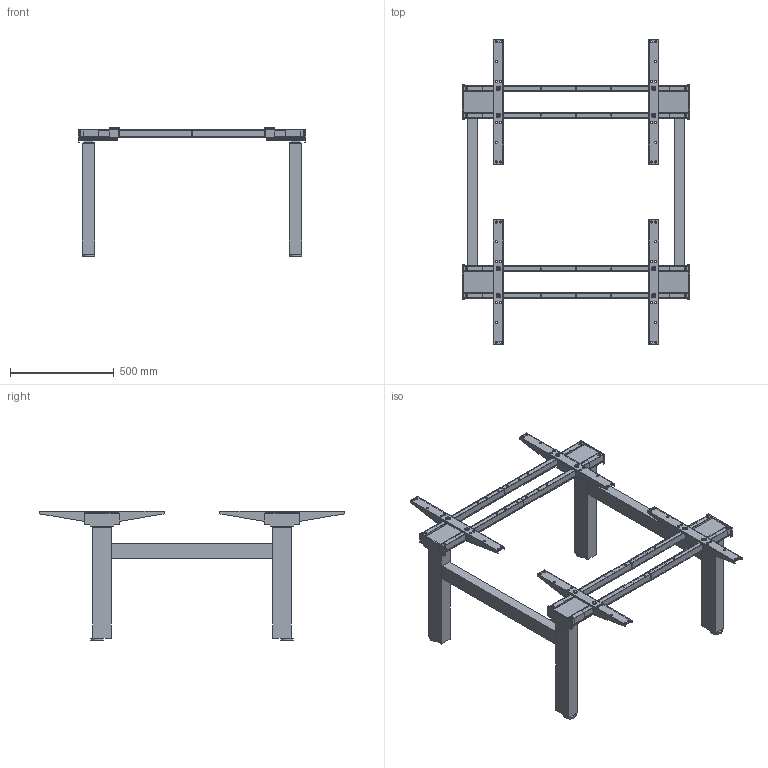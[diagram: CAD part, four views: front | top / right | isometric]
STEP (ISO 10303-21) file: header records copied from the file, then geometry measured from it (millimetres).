
FILE_DESCRIPTION( ( 'STEP AP214' ), '1' );
FILE_NAME( 'D:/Yug/2022/Actiforce_2022/QC/9311397.stp', '2022-03-02T07:30:04', ( '' ), ( '' ), ' ', 'PARTsolutions', ' ' );
FILE_SCHEMA( ( 'AUTOMOTIVE_DESIGN { 1 0 10303 214 1 1 1 1 }' ) );
Length unit declared in the file: millimetre
Products named in the file (6): 9311397(W1100XH561.9); _column_670_bench_1100_561.9; _9311397_12; _top_support_sf_570; _crossbar_sf_570; _cover_cap_sf_670
Assembly tree (18 placements, depth 2):
  9311397(W1100XH561.9)
    _column_670_bench_1100_561.9  x2
    _9311397_12  x4
    _top_support_sf_570  x4
    _crossbar_sf_570  x4
    _cover_cap_sf_670  x4
Bounding box: 1100 x 1470 x 625 mm (x, y, z)
Volume: 24011651.4 mm3; surface area: 3676067.8 mm2
Topology: 18 solids, 18 shells, 764 faces, 1892 edges, 1264 vertices
Faces by surface type: plane 552, cylinder 212
Full cylindrical faces by diameter (mm): 6.5 x12, 6.8 x16, 9 x8, 10 x36, 10.5 x40, 12 x16, 12.7 x8, 13.46 x16, 17.06 x16, 17.4 x16, 22 x8, 59.8 x4
Entity records: 7988 total; most frequent: CARTESIAN_POINT 1042, DIRECTION 1040, ORIENTED_EDGE 932, EDGE_CURVE 466, EDGE_LOOP 358, LINE 356, VECTOR 356, VERTEX_POINT 344
